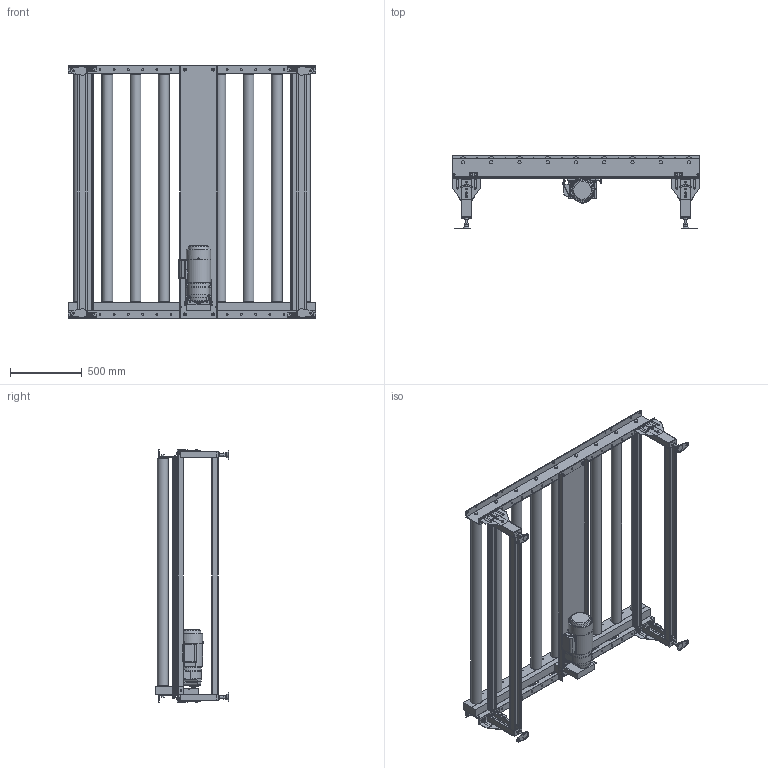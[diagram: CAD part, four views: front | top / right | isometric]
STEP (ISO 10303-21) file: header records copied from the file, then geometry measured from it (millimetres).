
FILE_DESCRIPTION( (''), '2;1');
FILE_NAME ('WEB-MHR-76-AUD-3-075-1700-200-173-R-16S.stp','2026-01-20T08:43:28',(''),(''),'spGate 20.6.2 (****-****-****-****)','','');
FILE_SCHEMA (('AUTOMOTIVE_DESIGN'));
Length unit declared in the file: millimetre
Products named in the file (35): WEB-MHR-76-AUD-3-075-1700-200-173-R-16S; TEMP_X_T-prt0; TEMP_X_T-prt1; TEMP_X_T-prt2; TEMP_X_T-prt3; TEMP_X_T-prt4; TEMP_X_T-prt5; TEMP_X_T-prt6; TEMP_X_T-prt7; TEMP_X_T-prt8; TEMP_X_T-prt9; TEMP_X_T-prt10; TEMP_X_T-prt11; TEMP_X_T-prt12; TEMP_X_T-prt13; TEMP_X_T-prt14; TEMP_X_T-prt15; TEMP_X_T-prt16; TEMP_X_T-prt17; TEMP_X_T-prt18; TEMP_X_T-prt19; TEMP_X_T-prt20; TEMP_X_T-prt21; TEMP_X_T-prt22; TEMP_X_T-prt23; TEMP_X_T-prt24; TEMP_X_T-prt25; TEMP_X_T-prt26; TEMP_X_T-prt27; TEMP_X_T-prt28; TEMP_X_T-prt29; TEMP_X_T-prt30; TEMP_X_T-prt31; TEMP_X_T-prt32; TEMP_X_T-prt33
Assembly tree (34 placements, depth 2):
  WEB-MHR-76-AUD-3-075-1700-200-173-R-16S
    TEMP_X_T-prt0
    TEMP_X_T-prt1
    TEMP_X_T-prt2
    TEMP_X_T-prt3
    TEMP_X_T-prt4
    TEMP_X_T-prt5
    TEMP_X_T-prt6
    TEMP_X_T-prt7
    TEMP_X_T-prt8
    TEMP_X_T-prt9
    TEMP_X_T-prt10
    TEMP_X_T-prt11
    TEMP_X_T-prt12
    TEMP_X_T-prt13
    TEMP_X_T-prt14
    TEMP_X_T-prt15
    TEMP_X_T-prt16
    TEMP_X_T-prt17
    TEMP_X_T-prt18
    TEMP_X_T-prt19
    TEMP_X_T-prt20
    TEMP_X_T-prt21
    TEMP_X_T-prt22
    TEMP_X_T-prt23
    TEMP_X_T-prt24
    TEMP_X_T-prt25
    TEMP_X_T-prt26
    TEMP_X_T-prt27
    TEMP_X_T-prt28
    TEMP_X_T-prt29
    TEMP_X_T-prt30
    TEMP_X_T-prt31
    TEMP_X_T-prt32
    TEMP_X_T-prt33
Bounding box: 1730 x 515 x 1763.2 mm (x, y, z)
Volume: 102657448.7 mm3; surface area: 10907626.8 mm2
Topology: 34 solids, 42 shells, 2444 faces, 6331 edges, 4244 vertices
Faces by surface type: plane 1861, cylinder 538, bspline 25, sphere 20
Full cylindrical faces by diameter (mm): 4 x8, 4.2 x4, 4.7 x4, 5 x12, 6 x18, 7 x17, 8 x3, 9 x4, 9.2 x6, 10 x48, 10.5 x20, 11 x50, 11.8 x4, 12 x27, 12.2 x8, 12.5 x8, 13 x32, 16 x8, 18.4 x24, 20 x18, 21 x16, 21.5 x19, 24 x1, 27 x1, 28 x1, 31 x1, 49 x18, 63 x1, 74 x18, 76.3 x9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
Entity records: 128112 total; most frequent: CARTESIAN_POINT 14879, DIRECTION 12929, ORIENTED_EDGE 12622, COLOUR_RGB 8789, PRESENTATION_STYLE_ASSIGNMENT 8789, STYLED_ITEM 8789, EDGE_CURVE 6311, DRAUGHTING_PRE_DEFINED_CURVE_FONT 6311
